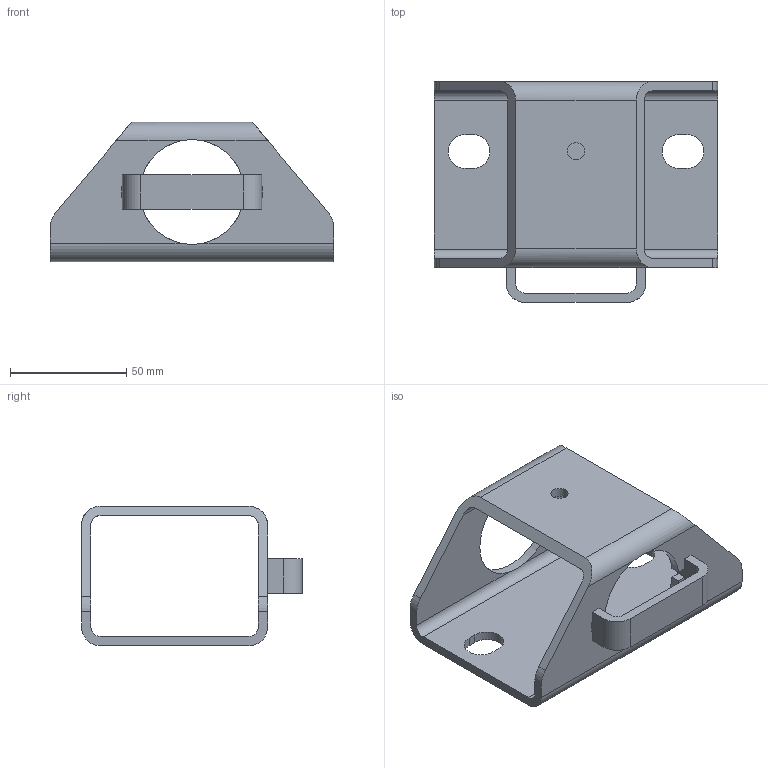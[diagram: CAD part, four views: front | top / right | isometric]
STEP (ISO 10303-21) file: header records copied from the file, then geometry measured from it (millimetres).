
FILE_DESCRIPTION((''),'2;1');
FILE_NAME('S:\Användarkataloger\AndreasA\Mina Inventor filer\Räcken\STEP\fäste_R9.stp','2010-09-07T13:57:55',('AndreasA'),(''),'Autodesk Inventor 2011','Autodesk Inventor 2011','');
FILE_SCHEMA(('AUTOMOTIVE_DESIGN { 1 0 10303 214 1 1 1 1 }'));
Length unit declared in the file: millimetre
Products named in the file (3): fäste_R9; fäste_r9; stopp_r9_r10
Assembly tree (2 placements, depth 2):
  fäste_R9
    fäste_r9
    stopp_r9_r10
Bounding box: 122 x 95 x 60 mm (x, y, z)
Volume: 84152 mm3; surface area: 47023.4 mm2
Topology: 2 solids, 2 shells, 68 faces, 209 edges, 139 vertices
Faces by surface type: plane 44, cylinder 24
Full cylindrical faces by diameter (mm): 7.4 x1, 45 x1
Entity records: 2466 total; most frequent: CARTESIAN_POINT 473, ORIENTED_EDGE 412, DIRECTION 398, EDGE_CURVE 206, VECTOR 144, LINE 144, VERTEX_POINT 138, AXIS2_PLACEMENT_3D 127
